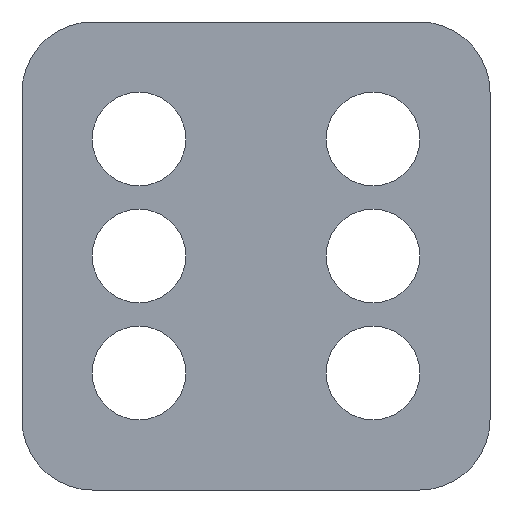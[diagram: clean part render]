
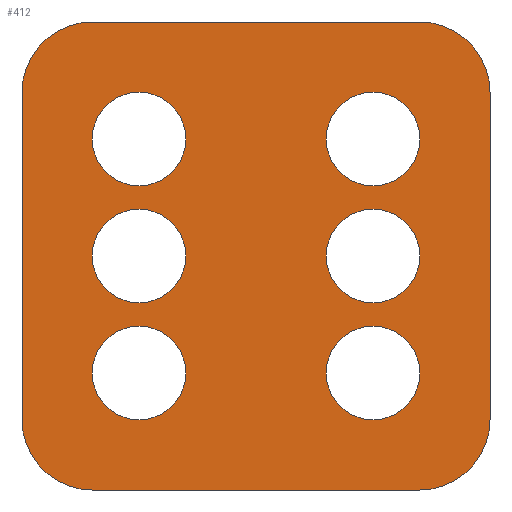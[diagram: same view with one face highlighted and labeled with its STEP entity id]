
A CAD part, front view. The second image highlights one B-rep face of the part: STEP entity #412.
In plain terms, the highlighted planar face has unit normal (0, -1, 0).
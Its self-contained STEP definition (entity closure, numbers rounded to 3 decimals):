
#1=CARTESIAN_POINT('',(-5.,0.,-5.));
#2=DIRECTION('',(0.,-1.,0.));
#3=DIRECTION('',(1.,0.,0.));
#4=AXIS2_PLACEMENT_3D('',#1,#2,#3);
#6=CARTESIAN_POINT('',(-5.,0.,-5.));
#7=DIRECTION('',(0.,-1.,0.));
#8=DIRECTION('',(-1.,0.,0.));
#9=AXIS2_PLACEMENT_3D('',#6,#7,#8);
#11=CARTESIAN_POINT('',(-5.,0.,5.));
#12=DIRECTION('',(0.,-1.,0.));
#13=DIRECTION('',(1.,0.,0.));
#14=AXIS2_PLACEMENT_3D('',#11,#12,#13);
#16=CARTESIAN_POINT('',(-5.,0.,5.));
#17=DIRECTION('',(0.,-1.,0.));
#18=DIRECTION('',(-1.,0.,0.));
#19=AXIS2_PLACEMENT_3D('',#16,#17,#18);
#21=CARTESIAN_POINT('',(-5.,0.,0.));
#22=DIRECTION('',(0.,-1.,0.));
#23=DIRECTION('',(1.,0.,0.));
#24=AXIS2_PLACEMENT_3D('',#21,#22,#23);
#26=CARTESIAN_POINT('',(-5.,0.,0.));
#27=DIRECTION('',(0.,-1.,0.));
#28=DIRECTION('',(-1.,0.,0.));
#29=AXIS2_PLACEMENT_3D('',#26,#27,#28);
#31=CARTESIAN_POINT('',(5.,0.,-5.));
#32=DIRECTION('',(0.,-1.,0.));
#33=DIRECTION('',(1.,0.,0.));
#34=AXIS2_PLACEMENT_3D('',#31,#32,#33);
#36=CARTESIAN_POINT('',(5.,0.,-5.));
#37=DIRECTION('',(0.,-1.,0.));
#38=DIRECTION('',(-1.,0.,0.));
#39=AXIS2_PLACEMENT_3D('',#36,#37,#38);
#41=CARTESIAN_POINT('',(5.,0.,5.));
#42=DIRECTION('',(0.,-1.,0.));
#43=DIRECTION('',(1.,0.,0.));
#44=AXIS2_PLACEMENT_3D('',#41,#42,#43);
#46=CARTESIAN_POINT('',(5.,0.,5.));
#47=DIRECTION('',(0.,-1.,0.));
#48=DIRECTION('',(-1.,0.,0.));
#49=AXIS2_PLACEMENT_3D('',#46,#47,#48);
#51=CARTESIAN_POINT('',(5.,0.,0.));
#52=DIRECTION('',(0.,-1.,0.));
#53=DIRECTION('',(1.,0.,0.));
#54=AXIS2_PLACEMENT_3D('',#51,#52,#53);
#56=CARTESIAN_POINT('',(5.,0.,0.));
#57=DIRECTION('',(0.,-1.,0.));
#58=DIRECTION('',(-1.,0.,0.));
#59=AXIS2_PLACEMENT_3D('',#56,#57,#58);
#61=CARTESIAN_POINT('',(-7.,0.,-7.));
#62=DIRECTION('',(0.,-1.,0.));
#63=DIRECTION('',(-1.,0.,0.));
#64=AXIS2_PLACEMENT_3D('',#61,#62,#63);
#66=DIRECTION('',(0.,0.,1.));
#67=VECTOR('',#66,14.);
#68=CARTESIAN_POINT('',(-10.,0.,-7.));
#69=LINE('',#68,#67);
#70=CARTESIAN_POINT('',(-7.,0.,7.));
#71=DIRECTION('',(0.,-1.,0.));
#72=DIRECTION('',(0.,0.,1.));
#73=AXIS2_PLACEMENT_3D('',#70,#71,#72);
#75=DIRECTION('',(1.,0.,0.));
#76=VECTOR('',#75,14.);
#77=CARTESIAN_POINT('',(-7.,0.,10.));
#78=LINE('',#77,#76);
#79=CARTESIAN_POINT('',(7.,0.,7.));
#80=DIRECTION('',(0.,-1.,0.));
#81=DIRECTION('',(1.,0.,0.));
#82=AXIS2_PLACEMENT_3D('',#79,#80,#81);
#84=DIRECTION('',(0.,0.,-1.));
#85=VECTOR('',#84,14.);
#86=CARTESIAN_POINT('',(10.,0.,7.));
#87=LINE('',#86,#85);
#88=CARTESIAN_POINT('',(7.,0.,-7.));
#89=DIRECTION('',(0.,-1.,0.));
#90=DIRECTION('',(0.,0.,-1.));
#91=AXIS2_PLACEMENT_3D('',#88,#89,#90);
#93=DIRECTION('',(-1.,0.,0.));
#94=VECTOR('',#93,14.);
#95=CARTESIAN_POINT('',(7.,0.,-10.));
#96=LINE('',#95,#94);
#273=CARTESIAN_POINT('',(-3.,0.,-5.));
#274=CARTESIAN_POINT('',(-7.,0.,-5.));
#275=VERTEX_POINT('',#273);
#276=VERTEX_POINT('',#274);
#281=CARTESIAN_POINT('',(-3.,0.,5.));
#282=CARTESIAN_POINT('',(-7.,0.,5.));
#283=VERTEX_POINT('',#281);
#284=VERTEX_POINT('',#282);
#289=CARTESIAN_POINT('',(-3.,0.,0.));
#290=CARTESIAN_POINT('',(-7.,0.,0.));
#291=VERTEX_POINT('',#289);
#292=VERTEX_POINT('',#290);
#297=CARTESIAN_POINT('',(7.,0.,-5.));
#298=CARTESIAN_POINT('',(3.,0.,-5.));
#299=VERTEX_POINT('',#297);
#300=VERTEX_POINT('',#298);
#305=CARTESIAN_POINT('',(7.,0.,5.));
#306=CARTESIAN_POINT('',(3.,0.,5.));
#307=VERTEX_POINT('',#305);
#308=VERTEX_POINT('',#306);
#313=CARTESIAN_POINT('',(7.,0.,0.));
#314=CARTESIAN_POINT('',(3.,0.,0.));
#315=VERTEX_POINT('',#313);
#316=VERTEX_POINT('',#314);
#321=CARTESIAN_POINT('',(-10.,0.,-7.));
#322=CARTESIAN_POINT('',(-7.,0.,-10.));
#323=VERTEX_POINT('',#321);
#324=VERTEX_POINT('',#322);
#329=CARTESIAN_POINT('',(-7.,0.,10.));
#330=CARTESIAN_POINT('',(-10.,0.,7.));
#331=VERTEX_POINT('',#329);
#332=VERTEX_POINT('',#330);
#337=CARTESIAN_POINT('',(10.,0.,7.));
#338=CARTESIAN_POINT('',(7.,0.,10.));
#339=VERTEX_POINT('',#337);
#340=VERTEX_POINT('',#338);
#345=CARTESIAN_POINT('',(7.,0.,-10.));
#346=CARTESIAN_POINT('',(10.,0.,-7.));
#347=VERTEX_POINT('',#345);
#348=VERTEX_POINT('',#346);
#353=CARTESIAN_POINT('',(0.,0.,0.));
#354=DIRECTION('',(0.,1.,0.));
#355=DIRECTION('',(1.,0.,0.));
#356=AXIS2_PLACEMENT_3D('',#353,#354,#355);
#357=PLANE('',#356);
#359=ORIENTED_EDGE('',*,*,#358,.F.);
#361=ORIENTED_EDGE('',*,*,#360,.T.);
#363=ORIENTED_EDGE('',*,*,#362,.F.);
#365=ORIENTED_EDGE('',*,*,#364,.T.);
#367=ORIENTED_EDGE('',*,*,#366,.F.);
#369=ORIENTED_EDGE('',*,*,#368,.T.);
#371=ORIENTED_EDGE('',*,*,#370,.F.);
#373=ORIENTED_EDGE('',*,*,#372,.T.);
#374=EDGE_LOOP('',(#359,#361,#363,#365,#367,#369,#371,#373));
#375=FACE_OUTER_BOUND('',#374,.F.);
#377=ORIENTED_EDGE('',*,*,#376,.T.);
#379=ORIENTED_EDGE('',*,*,#378,.T.);
#380=EDGE_LOOP('',(#377,#379));
#381=FACE_BOUND('',#380,.F.);
#383=ORIENTED_EDGE('',*,*,#382,.T.);
#385=ORIENTED_EDGE('',*,*,#384,.T.);
#386=EDGE_LOOP('',(#383,#385));
#387=FACE_BOUND('',#386,.F.);
#389=ORIENTED_EDGE('',*,*,#388,.T.);
#391=ORIENTED_EDGE('',*,*,#390,.T.);
#392=EDGE_LOOP('',(#389,#391));
#393=FACE_BOUND('',#392,.F.);
#395=ORIENTED_EDGE('',*,*,#394,.T.);
#397=ORIENTED_EDGE('',*,*,#396,.T.);
#398=EDGE_LOOP('',(#395,#397));
#399=FACE_BOUND('',#398,.F.);
#401=ORIENTED_EDGE('',*,*,#400,.T.);
#403=ORIENTED_EDGE('',*,*,#402,.T.);
#404=EDGE_LOOP('',(#401,#403));
#405=FACE_BOUND('',#404,.F.);
#407=ORIENTED_EDGE('',*,*,#406,.T.);
#409=ORIENTED_EDGE('',*,*,#408,.T.);
#410=EDGE_LOOP('',(#407,#409));
#411=FACE_BOUND('',#410,.F.);
#412=ADVANCED_FACE('',(#375,#381,#387,#393,#399,#405,#411),#357,.F.);
#5=CIRCLE('',#4,2.);
#10=CIRCLE('',#9,2.);
#15=CIRCLE('',#14,2.);
#20=CIRCLE('',#19,2.);
#25=CIRCLE('',#24,2.);
#30=CIRCLE('',#29,2.);
#35=CIRCLE('',#34,2.);
#40=CIRCLE('',#39,2.);
#45=CIRCLE('',#44,2.);
#50=CIRCLE('',#49,2.);
#55=CIRCLE('',#54,2.);
#60=CIRCLE('',#59,2.);
#65=CIRCLE('',#64,3.);
#74=CIRCLE('',#73,3.);
#83=CIRCLE('',#82,3.);
#92=CIRCLE('',#91,3.);
#358=EDGE_CURVE('',#323,#324,#65,.T.);
#360=EDGE_CURVE('',#323,#332,#69,.T.);
#362=EDGE_CURVE('',#331,#332,#74,.T.);
#364=EDGE_CURVE('',#331,#340,#78,.T.);
#366=EDGE_CURVE('',#339,#340,#83,.T.);
#368=EDGE_CURVE('',#339,#348,#87,.T.);
#370=EDGE_CURVE('',#347,#348,#92,.T.);
#372=EDGE_CURVE('',#347,#324,#96,.T.);
#376=EDGE_CURVE('',#283,#284,#15,.T.);
#378=EDGE_CURVE('',#284,#283,#20,.T.);
#382=EDGE_CURVE('',#291,#292,#25,.T.);
#384=EDGE_CURVE('',#292,#291,#30,.T.);
#388=EDGE_CURVE('',#299,#300,#35,.T.);
#390=EDGE_CURVE('',#300,#299,#40,.T.);
#394=EDGE_CURVE('',#307,#308,#45,.T.);
#396=EDGE_CURVE('',#308,#307,#50,.T.);
#400=EDGE_CURVE('',#315,#316,#55,.T.);
#402=EDGE_CURVE('',#316,#315,#60,.T.);
#406=EDGE_CURVE('',#275,#276,#5,.T.);
#408=EDGE_CURVE('',#276,#275,#10,.T.);
